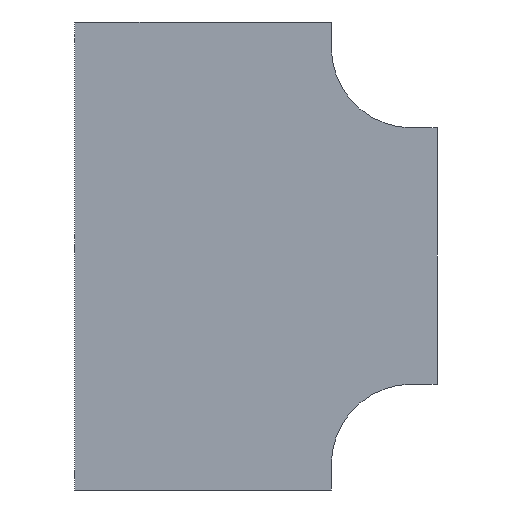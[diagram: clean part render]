
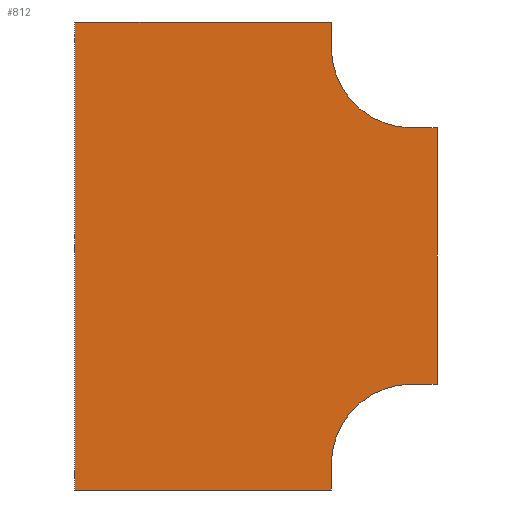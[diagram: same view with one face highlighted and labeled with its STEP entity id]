
A CAD part, front view. The second image highlights one B-rep face of the part: STEP entity #812.
In plain terms, the highlighted planar face has unit normal (0, -1, 0).
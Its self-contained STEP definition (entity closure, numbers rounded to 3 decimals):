
#8 = CARTESIAN_POINT ( 'NONE',  ( 0., 0., -525. ) ) ;
#21 = LINE ( 'NONE', #31, #1673 ) ;
#22 = LINE ( 'NONE', #1127, #756 ) ;
#31 = CARTESIAN_POINT ( 'NONE',  ( -125., 0., 40. ) ) ;
#51 = DIRECTION ( 'NONE',  ( -1., 0., 0. ) ) ;
#176 = DIRECTION ( 'NONE',  ( 0., -1., 0. ) ) ;
#211 = EDGE_CURVE ( 'NONE', #2251, #288, #1998, .T. ) ;
#222 = VECTOR ( 'NONE', #365, 1000. ) ;
#254 = AXIS2_PLACEMENT_3D ( 'NONE', #396, #176, #1131 ) ;
#264 = VECTOR ( 'NONE', #1814, 1000. ) ;
#285 = EDGE_CURVE ( 'NONE', #2113, #1658, #21, .T. ) ;
#288 = VERTEX_POINT ( 'NONE', #1470 ) ;
#352 = EDGE_CURVE ( 'NONE', #288, #1989, #1543, .T. ) ;
#365 = DIRECTION ( 'NONE',  ( 1., 0., 0. ) ) ;
#380 = VECTOR ( 'NONE', #51, 1000. ) ;
#396 = CARTESIAN_POINT ( 'NONE',  ( 0., 0., 0. ) ) ;
#401 = LINE ( 'NONE', #8, #1280 ) ;
#449 = CARTESIAN_POINT ( 'NONE',  ( -125., 0., 0. ) ) ;
#485 = CARTESIAN_POINT ( 'NONE',  ( -125., 0., -650. ) ) ;
#492 = CARTESIAN_POINT ( 'NONE',  ( 40., 0., -125. ) ) ;
#503 = CARTESIAN_POINT ( 'NONE',  ( -525., 0., -690. ) ) ;
#505 = ORIENTED_EDGE ( 'NONE', *, *, #656, .F. ) ;
#538 = CARTESIAN_POINT ( 'NONE',  ( 0., 0., -125. ) ) ;
#553 = ORIENTED_EDGE ( 'NONE', *, *, #1379, .F. ) ;
#558 = DIRECTION ( 'NONE',  ( 0., -1., 0. ) ) ;
#596 = VERTEX_POINT ( 'NONE', #733 ) ;
#600 = CARTESIAN_POINT ( 'NONE',  ( -525., 0., 40. ) ) ;
#611 = EDGE_CURVE ( 'NONE', #2157, #2251, #1578, .T. ) ;
#633 = CARTESIAN_POINT ( 'NONE',  ( -525., 0., -690. ) ) ;
#656 = EDGE_CURVE ( 'NONE', #596, #2157, #401, .T. ) ;
#704 = ORIENTED_EDGE ( 'NONE', *, *, #611, .F. ) ;
#733 = CARTESIAN_POINT ( 'NONE',  ( 40., 0., -525. ) ) ;
#746 = DIRECTION ( 'NONE',  ( 0., 0., -1. ) ) ;
#756 = VECTOR ( 'NONE', #2048, 1000. ) ;
#762 = EDGE_CURVE ( 'NONE', #2015, #596, #1778, .T. ) ;
#773 = ORIENTED_EDGE ( 'NONE', *, *, #352, .F. ) ;
#812 = ADVANCED_FACE ( 'NONE', ( #953 ), #1282, .T. ) ;
#928 = ORIENTED_EDGE ( 'NONE', *, *, #211, .F. ) ;
#953 = FACE_OUTER_BOUND ( 'NONE', #1349, .T. ) ;
#992 = CARTESIAN_POINT ( 'NONE',  ( 0., 0., -525. ) ) ;
#1019 = DIRECTION ( 'NONE',  ( 0., 0., -1. ) ) ;
#1023 = EDGE_CURVE ( 'NONE', #1989, #1119, #1376, .T. ) ;
#1077 = VERTEX_POINT ( 'NONE', #1684 ) ;
#1101 = ORIENTED_EDGE ( 'NONE', *, *, #1023, .F. ) ;
#1119 = VERTEX_POINT ( 'NONE', #600 ) ;
#1127 = CARTESIAN_POINT ( 'NONE',  ( -525., 0., 40. ) ) ;
#1131 = DIRECTION ( 'NONE',  ( 0., 0., -1. ) ) ;
#1213 = AXIS2_PLACEMENT_3D ( 'NONE', #1932, #1544, #1019 ) ;
#1223 = DIRECTION ( 'NONE',  ( 0., 0., 1. ) ) ;
#1280 = VECTOR ( 'NONE', #1467, 1000. ) ;
#1282 = PLANE ( 'NONE',  #254 ) ;
#1289 = CARTESIAN_POINT ( 'NONE',  ( -125., 0., -690. ) ) ;
#1297 = ORIENTED_EDGE ( 'NONE', *, *, #1469, .F. ) ;
#1322 = CIRCLE ( 'NONE', #1213, 125. ) ;
#1349 = EDGE_LOOP ( 'NONE', ( #1297, #1101, #773, #928, #704, #505, #2172, #553, #1642, #1418 ) ) ;
#1356 = VECTOR ( 'NONE', #1223, 1000. ) ;
#1376 = LINE ( 'NONE', #503, #1356 ) ;
#1379 = EDGE_CURVE ( 'NONE', #1077, #2015, #1988, .T. ) ;
#1418 = ORIENTED_EDGE ( 'NONE', *, *, #285, .F. ) ;
#1467 = DIRECTION ( 'NONE',  ( -1., 0., 0. ) ) ;
#1469 = EDGE_CURVE ( 'NONE', #1119, #2113, #22, .T. ) ;
#1470 = CARTESIAN_POINT ( 'NONE',  ( -125., 0., -690. ) ) ;
#1509 = CARTESIAN_POINT ( 'NONE',  ( -125., 0., 40. ) ) ;
#1511 = VECTOR ( 'NONE', #2133, 1000. ) ;
#1543 = LINE ( 'NONE', #633, #380 ) ;
#1544 = DIRECTION ( 'NONE',  ( 0., -1., 0. ) ) ;
#1576 = EDGE_CURVE ( 'NONE', #1658, #1077, #1322, .T. ) ;
#1578 = CIRCLE ( 'NONE', #2008, 125. ) ;
#1642 = ORIENTED_EDGE ( 'NONE', *, *, #1576, .F. ) ;
#1658 = VERTEX_POINT ( 'NONE', #449 ) ;
#1673 = VECTOR ( 'NONE', #746, 1000. ) ;
#1684 = CARTESIAN_POINT ( 'NONE',  ( 0., 0., -125. ) ) ;
#1778 = LINE ( 'NONE', #492, #1511 ) ;
#1814 = DIRECTION ( 'NONE',  ( 0., 0., -1. ) ) ;
#1822 = CARTESIAN_POINT ( 'NONE',  ( -525., 0., -690. ) ) ;
#1932 = CARTESIAN_POINT ( 'NONE',  ( 0., 0., 0. ) ) ;
#1981 = CARTESIAN_POINT ( 'NONE',  ( 0., 0., -650. ) ) ;
#1988 = LINE ( 'NONE', #538, #222 ) ;
#1989 = VERTEX_POINT ( 'NONE', #1822 ) ;
#1998 = LINE ( 'NONE', #1289, #264 ) ;
#2008 = AXIS2_PLACEMENT_3D ( 'NONE', #1981, #558, #2024 ) ;
#2015 = VERTEX_POINT ( 'NONE', #2338 ) ;
#2024 = DIRECTION ( 'NONE',  ( 0., 0., 1. ) ) ;
#2048 = DIRECTION ( 'NONE',  ( 1., 0., 0. ) ) ;
#2113 = VERTEX_POINT ( 'NONE', #1509 ) ;
#2133 = DIRECTION ( 'NONE',  ( 0., 0., -1. ) ) ;
#2157 = VERTEX_POINT ( 'NONE', #992 ) ;
#2172 = ORIENTED_EDGE ( 'NONE', *, *, #762, .F. ) ;
#2251 = VERTEX_POINT ( 'NONE', #485 ) ;
#2338 = CARTESIAN_POINT ( 'NONE',  ( 40., 0., -125. ) ) ;
